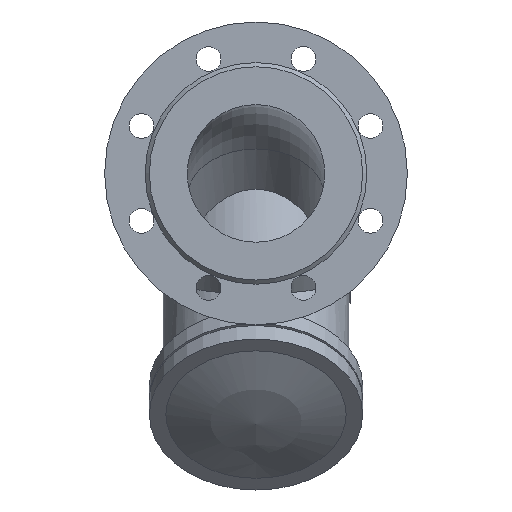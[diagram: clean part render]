
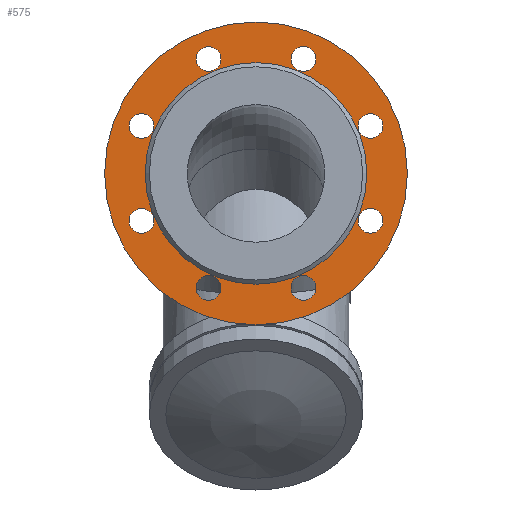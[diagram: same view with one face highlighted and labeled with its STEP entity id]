
A CAD part, front view. The second image highlights one B-rep face of the part: STEP entity #575.
In plain terms, the highlighted planar face has unit normal (0, -1, 0).
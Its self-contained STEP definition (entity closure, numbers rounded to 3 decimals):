
#575=ADVANCED_FACE('',(#1234,#1236,#1238,#1240,#1242,#1244,#1246,#1248,#1250,#1252),
#1254,.T.);
#1234=FACE_BOUND('',#1235,.T.);
#1235=EDGE_LOOP('',(#1638));
#1236=FACE_BOUND('',#1237,.T.);
#1237=EDGE_LOOP('',(#1639));
#1238=FACE_BOUND('',#1239,.T.);
#1239=EDGE_LOOP('',(#1640));
#1240=FACE_BOUND('',#1241,.T.);
#1241=EDGE_LOOP('',(#1641));
#1242=FACE_BOUND('',#1243,.T.);
#1243=EDGE_LOOP('',(#1642));
#1244=FACE_BOUND('',#1245,.T.);
#1245=EDGE_LOOP('',(#1643));
#1246=FACE_BOUND('',#1247,.T.);
#1247=EDGE_LOOP('',(#1644));
#1248=FACE_BOUND('',#1249,.T.);
#1249=EDGE_LOOP('',(#1645));
#1250=FACE_BOUND('',#1251,.T.);
#1251=EDGE_LOOP('',(#1646));
#1252=FACE_BOUND('',#1253,.T.);
#1253=EDGE_LOOP('',(#1647));
#1254=PLANE('',#1255);
#1255=AXIS2_PLACEMENT_3D('',#1256,#1257,#1258);
#1256=CARTESIAN_POINT('',(0.,-172.,0.));
#1257=DIRECTION('',(0.,-1.,0.));
#1258=DIRECTION('',(0.,0.,1.));
#1638=ORIENTED_EDGE('',*,*,#1788,.F.);
#1639=ORIENTED_EDGE('',*,*,#1796,.T.);
#1640=ORIENTED_EDGE('',*,*,#1795,.T.);
#1641=ORIENTED_EDGE('',*,*,#1794,.T.);
#1642=ORIENTED_EDGE('',*,*,#1793,.T.);
#1643=ORIENTED_EDGE('',*,*,#1792,.T.);
#1644=ORIENTED_EDGE('',*,*,#1791,.T.);
#1645=ORIENTED_EDGE('',*,*,#1790,.T.);
#1646=ORIENTED_EDGE('',*,*,#1807,.T.);
#1647=ORIENTED_EDGE('',*,*,#1789,.T.);
#1788=EDGE_CURVE('',#2000,#2000,#2001,.T.);
#1789=EDGE_CURVE('',#2002,#2002,#2003,.F.);
#1790=EDGE_CURVE('',#2004,#2004,#2005,.F.);
#1791=EDGE_CURVE('',#2006,#2006,#2007,.F.);
#1792=EDGE_CURVE('',#2008,#2008,#2009,.F.);
#1793=EDGE_CURVE('',#2010,#2010,#2011,.F.);
#1794=EDGE_CURVE('',#2012,#2012,#2013,.F.);
#1795=EDGE_CURVE('',#2014,#2014,#2015,.F.);
#1796=EDGE_CURVE('',#2016,#2016,#2017,.F.);
#1807=EDGE_CURVE('',#2038,#2038,#2039,.T.);
#2000=VERTEX_POINT('',#3290);
#2001=CIRCLE('',#3291,110.);
#2002=VERTEX_POINT('',#3295);
#2003=CIRCLE('',#3296,9.);
#2004=VERTEX_POINT('',#3300);
#2005=CIRCLE('',#3301,9.);
#2006=VERTEX_POINT('',#3305);
#2007=CIRCLE('',#3306,9.);
#2008=VERTEX_POINT('',#3310);
#2009=CIRCLE('',#3311,9.);
#2010=VERTEX_POINT('',#3315);
#2011=CIRCLE('',#3316,9.);
#2012=VERTEX_POINT('',#3320);
#2013=CIRCLE('',#3321,9.);
#2014=VERTEX_POINT('',#3325);
#2015=CIRCLE('',#3326,9.);
#2016=VERTEX_POINT('',#3330);
#2017=CIRCLE('',#3331,9.);
#2038=VERTEX_POINT('',#3385);
#2039=CIRCLE('',#3386,80.5);
#3290=CARTESIAN_POINT('',(0.,-172.,110.));
#3291=AXIS2_PLACEMENT_3D('',#3292,#3293,#3294);
#3292=CARTESIAN_POINT('',(0.,-172.,0.));
#3293=DIRECTION('',(0.,1.,0.));
#3294=DIRECTION('',(0.,0.,1.));
#3295=CARTESIAN_POINT('',(-25.442,-172.,83.149));
#3296=AXIS2_PLACEMENT_3D('',#3297,#3298,#3299);
#3297=CARTESIAN_POINT('',(-34.442,-172.,83.149));
#3298=DIRECTION('',(0.,-1.,0.));
#3299=DIRECTION('',(1.,0.,0.));
#3300=CARTESIAN_POINT('',(-76.785,-172.,40.805));
#3301=AXIS2_PLACEMENT_3D('',#3302,#3303,#3304);
#3302=CARTESIAN_POINT('',(-83.149,-172.,34.442));
#3303=DIRECTION('',(0.,-1.,0.));
#3304=DIRECTION('',(0.707,0.,0.707));
#3305=CARTESIAN_POINT('',(-83.149,-172.,-25.442));
#3306=AXIS2_PLACEMENT_3D('',#3307,#3308,#3309);
#3307=CARTESIAN_POINT('',(-83.149,-172.,-34.442));
#3308=DIRECTION('',(0.,-1.,0.));
#3309=DIRECTION('',(0.,0.,1.));
#3310=CARTESIAN_POINT('',(-40.805,-172.,-76.785));
#3311=AXIS2_PLACEMENT_3D('',#3312,#3313,#3314);
#3312=CARTESIAN_POINT('',(-34.442,-172.,-83.149));
#3313=DIRECTION('',(0.,-1.,0.));
#3314=DIRECTION('',(-0.707,0.,0.707));
#3315=CARTESIAN_POINT('',(25.442,-172.,-83.149));
#3316=AXIS2_PLACEMENT_3D('',#3317,#3318,#3319);
#3317=CARTESIAN_POINT('',(34.442,-172.,-83.149));
#3318=DIRECTION('',(0.,-1.,0.));
#3319=DIRECTION('',(-1.,0.,0.));
#3320=CARTESIAN_POINT('',(76.785,-172.,-40.805));
#3321=AXIS2_PLACEMENT_3D('',#3322,#3323,#3324);
#3322=CARTESIAN_POINT('',(83.149,-172.,-34.442));
#3323=DIRECTION('',(0.,-1.,0.));
#3324=DIRECTION('',(-0.707,0.,-0.707));
#3325=CARTESIAN_POINT('',(83.149,-172.,25.442));
#3326=AXIS2_PLACEMENT_3D('',#3327,#3328,#3329);
#3327=CARTESIAN_POINT('',(83.149,-172.,34.442));
#3328=DIRECTION('',(0.,-1.,0.));
#3329=DIRECTION('',(0.,0.,-1.));
#3330=CARTESIAN_POINT('',(40.805,-172.,76.785));
#3331=AXIS2_PLACEMENT_3D('',#3332,#3333,#3334);
#3332=CARTESIAN_POINT('',(34.442,-172.,83.149));
#3333=DIRECTION('',(0.,-1.,0.));
#3334=DIRECTION('',(0.707,0.,-0.707));
#3385=CARTESIAN_POINT('',(0.,-172.,80.5));
#3386=AXIS2_PLACEMENT_3D('',#3387,#3388,#3389);
#3387=CARTESIAN_POINT('',(0.,-172.,0.));
#3388=DIRECTION('',(0.,1.,0.));
#3389=DIRECTION('',(0.,0.,1.));
